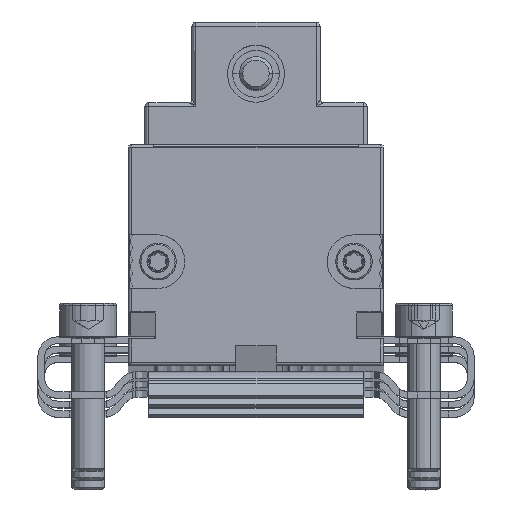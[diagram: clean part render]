
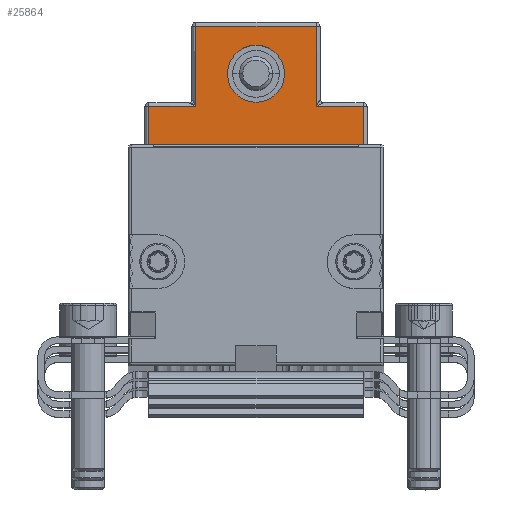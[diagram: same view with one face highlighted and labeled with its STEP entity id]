
A CAD part, top view. The second image highlights one B-rep face of the part: STEP entity #25864.
In plain terms, the highlighted planar face has unit normal (0, 0, 1) as drawn and (0, 0, -1) by its records, which use the part's own axes.
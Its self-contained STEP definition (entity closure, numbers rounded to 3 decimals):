
#411 = EDGE_CURVE ( 'NONE', #35184, #35212, #30414, .T. ) ;
#429 = VERTEX_POINT ( 'NONE', #30501 ) ;
#20734 = CARTESIAN_POINT ( 'NONE',  ( 15.25, 16.2, -1.3 ) ) ;
#20783 = DIRECTION ( 'NONE',  ( 0., 1., 0. ) ) ;
#20784 = DIRECTION ( 'NONE',  ( 0., 0., -1. ) ) ;
#20785 = AXIS2_PLACEMENT_3D ( 'NONE', #20734, #20784, #20783 ) ;
#20786 = CIRCLE ( 'NONE', #20785, 4.25 ) ;
#20864 = DIRECTION ( 'NONE',  ( 1., 0., 0. ) ) ;
#20865 = VECTOR ( 'NONE', #20864, 1000. ) ;
#20866 = CARTESIAN_POINT ( 'NONE',  ( 31.8, 11.3, -1.3 ) ) ;
#20867 = LINE ( 'NONE', #20866, #20865 ) ;
#20885 = DIRECTION ( 'NONE',  ( 1., 0., 0. ) ) ;
#20886 = VECTOR ( 'NONE', #20885, 1000. ) ;
#20887 = CARTESIAN_POINT ( 'NONE',  ( 30.5, 23.3, -1.3 ) ) ;
#20888 = LINE ( 'NONE', #20887, #20886 ) ;
#20908 = CARTESIAN_POINT ( 'NONE',  ( -0.7, 11.3, -1.3 ) ) ;
#20909 = DIRECTION ( 'NONE',  ( 0., 1., 0. ) ) ;
#20910 = VECTOR ( 'NONE', #20909, 1000. ) ;
#20911 = CARTESIAN_POINT ( 'NONE',  ( -0.7, 0., -1.3 ) ) ;
#20912 = LINE ( 'NONE', #20911, #20910 ) ;
#20914 = DIRECTION ( 'NONE',  ( 1., 0., 0. ) ) ;
#20915 = VECTOR ( 'NONE', #20914, 1000. ) ;
#20916 = CARTESIAN_POINT ( 'NONE',  ( 5.5, -0.3, -1.3 ) ) ;
#20917 = LINE ( 'NONE', #20916, #20915 ) ;
#20944 = CARTESIAN_POINT ( 'NONE',  ( 24.2, 23.3, -1.3 ) ) ;
#20946 = LINE ( 'NONE', #21008, #21007 ) ;
#20951 = CARTESIAN_POINT ( 'NONE',  ( 31.2, 11.3, -1.3 ) ) ;
#20958 = CARTESIAN_POINT ( 'NONE',  ( 6.3, 23.3, -1.3 ) ) ;
#20969 = CARTESIAN_POINT ( 'NONE',  ( 25., -0.3, -1.3 ) ) ;
#20970 = DIRECTION ( 'NONE',  ( 0., 1., 0. ) ) ;
#20971 = VECTOR ( 'NONE', #20970, 1000. ) ;
#20972 = CARTESIAN_POINT ( 'NONE',  ( 25., -0.3, -1.3 ) ) ;
#20973 = LINE ( 'NONE', #20972, #20971 ) ;
#20975 = CARTESIAN_POINT ( 'NONE',  ( 5.5, -0.3, -1.3 ) ) ;
#20995 = DIRECTION ( 'NONE',  ( 0., -1., 0. ) ) ;
#20996 = VECTOR ( 'NONE', #20995, 1000. ) ;
#20997 = CARTESIAN_POINT ( 'NONE',  ( 24.2, 0., -1.3 ) ) ;
#20998 = LINE ( 'NONE', #20997, #20996 ) ;
#21005 = CARTESIAN_POINT ( 'NONE',  ( 6.3, 11.3, -1.3 ) ) ;
#21006 = DIRECTION ( 'NONE',  ( 1., 0., 0. ) ) ;
#21007 = VECTOR ( 'NONE', #21006, 1000. ) ;
#21008 = CARTESIAN_POINT ( 'NONE',  ( 30.5, 11.3, -1.3 ) ) ;
#21017 = CARTESIAN_POINT ( 'NONE',  ( 24.2, 11.3, -1.3 ) ) ;
#21044 = CARTESIAN_POINT ( 'NONE',  ( -0.7, -0.1, -1.3 ) ) ;
#21045 = CARTESIAN_POINT ( 'NONE',  ( 5.5, -0.1, -1.3 ) ) ;
#21048 = DIRECTION ( 'NONE',  ( 0., -1., 0. ) ) ;
#21049 = VECTOR ( 'NONE', #21048, 1000. ) ;
#21051 = CARTESIAN_POINT ( 'NONE',  ( 31.2, 0., -1.3 ) ) ;
#21052 = LINE ( 'NONE', #21051, #21049 ) ;
#21058 = DIRECTION ( 'NONE',  ( 1., 0., 0. ) ) ;
#21059 = VECTOR ( 'NONE', #21058, 1000. ) ;
#21060 = CARTESIAN_POINT ( 'NONE',  ( 31.2, -0.1, -1.3 ) ) ;
#21061 = LINE ( 'NONE', #21060, #21059 ) ;
#21068 = DIRECTION ( 'NONE',  ( 0., 1., 0. ) ) ;
#21069 = VECTOR ( 'NONE', #21068, 1000. ) ;
#21070 = CARTESIAN_POINT ( 'NONE',  ( 6.3, 23.9, -1.3 ) ) ;
#21071 = LINE ( 'NONE', #21070, #21069 ) ;
#21157 = DIRECTION ( 'NONE',  ( 0., -1., 0. ) ) ;
#21158 = DIRECTION ( 'NONE',  ( 0., 0., 1. ) ) ;
#21159 = CARTESIAN_POINT ( 'NONE',  ( 30.5, 0., -1.3 ) ) ;
#21160 = AXIS2_PLACEMENT_3D ( 'NONE', #21159, #21158, #21157 ) ;
#21161 = PLANE ( 'NONE',  #21160 ) ;
#21162 = FACE_OUTER_BOUND ( 'NONE', #25642, .T. ) ;
#21163 = FACE_BOUND ( 'NONE', #25614, .T. ) ;
#21202 = DIRECTION ( 'NONE',  ( 0., 1., 0. ) ) ;
#21203 = VECTOR ( 'NONE', #21202, 1000. ) ;
#21204 = CARTESIAN_POINT ( 'NONE',  ( 5.5, -0.3, -1.3 ) ) ;
#21205 = LINE ( 'NONE', #21204, #21203 ) ;
#25513 = EDGE_CURVE ( 'NONE', #35212, #35184, #20786, .T. ) ;
#25614 = EDGE_LOOP ( 'NONE', ( #25696, #25934 ) ) ;
#25621 = EDGE_CURVE ( 'NONE', #25754, #25703, #20867, .T. ) ;
#25629 = ORIENTED_EDGE ( 'NONE', *, *, #25637, .T. ) ;
#25637 = EDGE_CURVE ( 'NONE', #25790, #25639, #20912, .T. ) ;
#25639 = VERTEX_POINT ( 'NONE', #20908 ) ;
#25642 = EDGE_LOOP ( 'NONE', ( #25847, #25681, #25787, #25690, #25685, #25677, #25775, #25629, #25706, #25762, #25773, #25712 ) ) ;
#25662 = EDGE_CURVE ( 'NONE', #25700, #25665, #20888, .T. ) ;
#25665 = VERTEX_POINT ( 'NONE', #20944 ) ;
#25677 = ORIENTED_EDGE ( 'NONE', *, *, #25923, .T. ) ;
#25681 = ORIENTED_EDGE ( 'NONE', *, *, #25782, .T. ) ;
#25685 = ORIENTED_EDGE ( 'NONE', *, *, #25686, .F. ) ;
#25686 = EDGE_CURVE ( 'NONE', #25688, #25692, #20917, .T. ) ;
#25688 = VERTEX_POINT ( 'NONE', #20975 ) ;
#25690 = ORIENTED_EDGE ( 'NONE', *, *, #25691, .F. ) ;
#25691 = EDGE_CURVE ( 'NONE', #25692, #35140, #20973, .T. ) ;
#25692 = VERTEX_POINT ( 'NONE', #20969 ) ;
#25696 = ORIENTED_EDGE ( 'NONE', *, *, #25513, .F. ) ;
#25700 = VERTEX_POINT ( 'NONE', #20958 ) ;
#25703 = VERTEX_POINT ( 'NONE', #20951 ) ;
#25706 = ORIENTED_EDGE ( 'NONE', *, *, #25707, .T. ) ;
#25707 = EDGE_CURVE ( 'NONE', #25639, #25708, #20946, .T. ) ;
#25708 = VERTEX_POINT ( 'NONE', #21005 ) ;
#25712 = ORIENTED_EDGE ( 'NONE', *, *, #25714, .T. ) ;
#25714 = EDGE_CURVE ( 'NONE', #25665, #25754, #20998, .T. ) ;
#25754 = VERTEX_POINT ( 'NONE', #21017 ) ;
#25762 = ORIENTED_EDGE ( 'NONE', *, *, #25765, .T. ) ;
#25765 = EDGE_CURVE ( 'NONE', #25708, #25700, #21071, .T. ) ;
#25773 = ORIENTED_EDGE ( 'NONE', *, *, #25662, .T. ) ;
#25775 = ORIENTED_EDGE ( 'NONE', *, *, #25778, .F. ) ;
#25778 = EDGE_CURVE ( 'NONE', #25790, #25788, #21061, .T. ) ;
#25782 = EDGE_CURVE ( 'NONE', #25703, #429, #21052, .T. ) ;
#25787 = ORIENTED_EDGE ( 'NONE', *, *, #35172, .F. ) ;
#25788 = VERTEX_POINT ( 'NONE', #21045 ) ;
#25790 = VERTEX_POINT ( 'NONE', #21044 ) ;
#25847 = ORIENTED_EDGE ( 'NONE', *, *, #25621, .T. ) ;
#25864 = ADVANCED_FACE ( 'NONE', ( #21163, #21162 ), #21161, .F. ) ;
#25923 = EDGE_CURVE ( 'NONE', #25688, #25788, #21205, .T. ) ;
#25934 = ORIENTED_EDGE ( 'NONE', *, *, #411, .F. ) ;
#30080 = CARTESIAN_POINT ( 'NONE',  ( 25., -0.1, -1.3 ) ) ;
#30097 = DIRECTION ( 'NONE',  ( 1., 0., 0. ) ) ;
#30098 = VECTOR ( 'NONE', #30097, 1000. ) ;
#30099 = CARTESIAN_POINT ( 'NONE',  ( 31.2, -0.1, -1.3 ) ) ;
#30100 = LINE ( 'NONE', #30099, #30098 ) ;
#30159 = CARTESIAN_POINT ( 'NONE',  ( 15.25, 11.95, -1.3 ) ) ;
#30278 = CARTESIAN_POINT ( 'NONE',  ( 15.25, 20.45, -1.3 ) ) ;
#30414 = CIRCLE ( 'NONE', #30477, 4.25 ) ;
#30429 = CARTESIAN_POINT ( 'NONE',  ( 15.25, 16.2, -1.3 ) ) ;
#30474 = DIRECTION ( 'NONE',  ( 0., 1., 0. ) ) ;
#30476 = DIRECTION ( 'NONE',  ( 0., 0., -1. ) ) ;
#30477 = AXIS2_PLACEMENT_3D ( 'NONE', #30429, #30476, #30474 ) ;
#30501 = CARTESIAN_POINT ( 'NONE',  ( 31.2, -0.1, -1.3 ) ) ;
#35140 = VERTEX_POINT ( 'NONE', #30080 ) ;
#35172 = EDGE_CURVE ( 'NONE', #35140, #429, #30100, .T. ) ;
#35184 = VERTEX_POINT ( 'NONE', #30159 ) ;
#35212 = VERTEX_POINT ( 'NONE', #30278 ) ;
